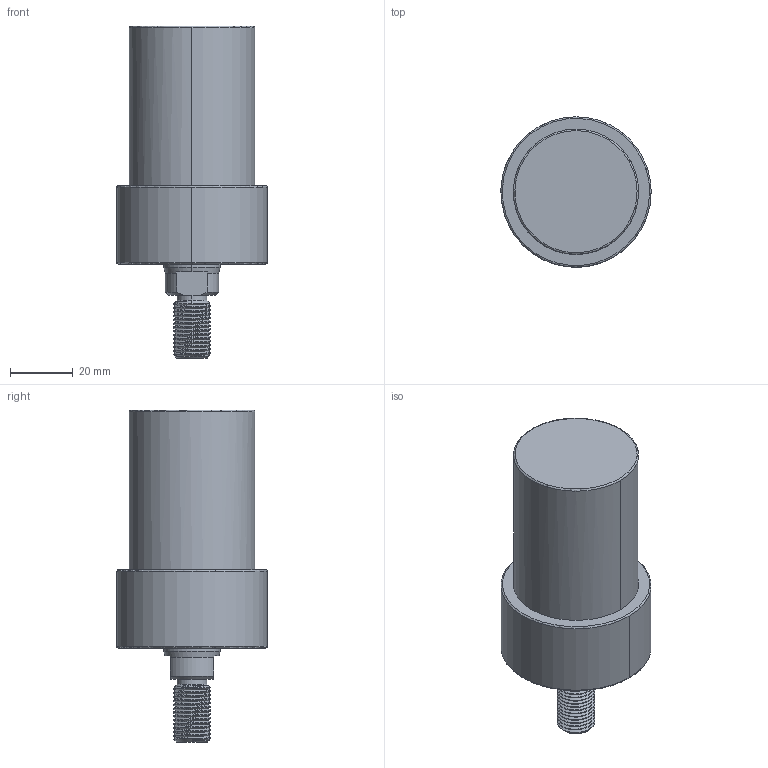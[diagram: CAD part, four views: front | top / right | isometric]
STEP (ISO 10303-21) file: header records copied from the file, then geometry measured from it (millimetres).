
FILE_DESCRIPTION((' '),'2;1');
FILE_NAME( 'TLLU-040GT-040.STEP.stp', '2025-10-24T16:37:14', (' '), ('--- Datakit www.datakit.com---'), ' Datakit CrossCadWare V2024.1 Dec 21 2023', 'Mastercam 2025', ' ');
FILE_SCHEMA(('AUTOMOTIVE_DESIGN { 1 0 10303 214 1 1 1 1 }'));
Length unit declared in the file: millimetre
Products named in the file (1): TLLU-040GT-040
Bounding box: 47.99 x 48 x 106 mm (x, y, z)
Volume: 112459.8 mm3; surface area: 16204.1 mm2
Topology: 1 solids, 1 shells, 94 faces, 333 edges, 242 vertices
Faces by surface type: cylinder 49, cone 25, plane 12, torus 6, bspline 2
Entity records: 9336 total; most frequent: CARTESIAN_POINT 6586, ORIENTED_EDGE 650, DIRECTION 500, EDGE_CURVE 325, VERTEX_POINT 242, AXIS2_PLACEMENT_3D 210, B_SPLINE_CURVE_WITH_KNOTS 128, CIRCLE 117
